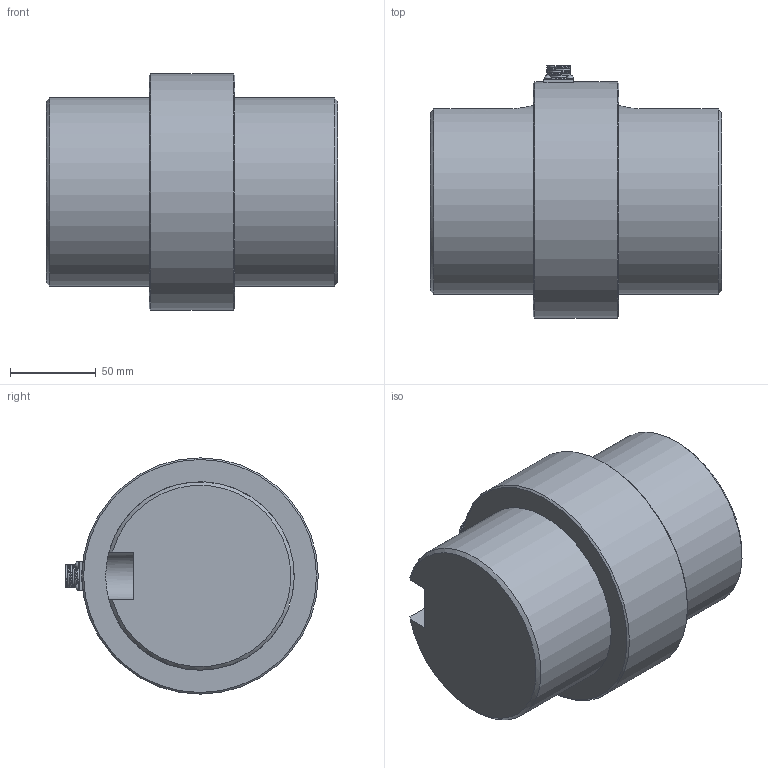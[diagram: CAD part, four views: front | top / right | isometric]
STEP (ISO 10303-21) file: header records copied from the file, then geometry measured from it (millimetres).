
FILE_DESCRIPTION(/* description */ (''),/* implementation_level */ '2;1');
FILE_NAME(/* name */ 'I:/New Datasheets/STEP Models/Pending models/YDNS/YDNS 10000Nm.step',/* time_stamp */ '2020-10-08T10:18:53+01:00',/* author */ (''),/* organization */ (''),/* preprocessor_version */ 'ST-DEVELOPER v18.1',/* originating_system */ 'Autodesk Translation Framework v9.3.0.1241',/* authorisation */ '');
FILE_SCHEMA (('AUTOMOTIVE_DESIGN { 1 0 10303 214 3 1 1 }'));
Length unit declared in the file: millimetre
Products named in the file (3): YDNS 10000Nm; YDNS 1T Body; YDNS 1T Shaft
Assembly tree (2 placements, depth 2):
  YDNS 10000Nm
    YDNS 1T Body
    YDNS 1T Shaft
Bounding box: 170 x 147.4 x 138 mm (x, y, z)
Volume: 1839910 mm3; surface area: 130026.7 mm2
Topology: 2 solids, 2 shells, 43 faces, 106 edges, 69 vertices
Faces by surface type: cylinder 18, plane 16, sphere 4, cone 4, bspline 1
Full cylindrical faces by diameter (mm): 4 x4, 14 x7, 110 x2, 138 x1
Entity records: 3147 total; most frequent: CARTESIAN_POINT 2035, ORIENTED_EDGE 204, DIRECTION 201, EDGE_CURVE 102, AXIS2_PLACEMENT_3D 78, VERTEX_POINT 69, EDGE_LOOP 51, LINE 45
